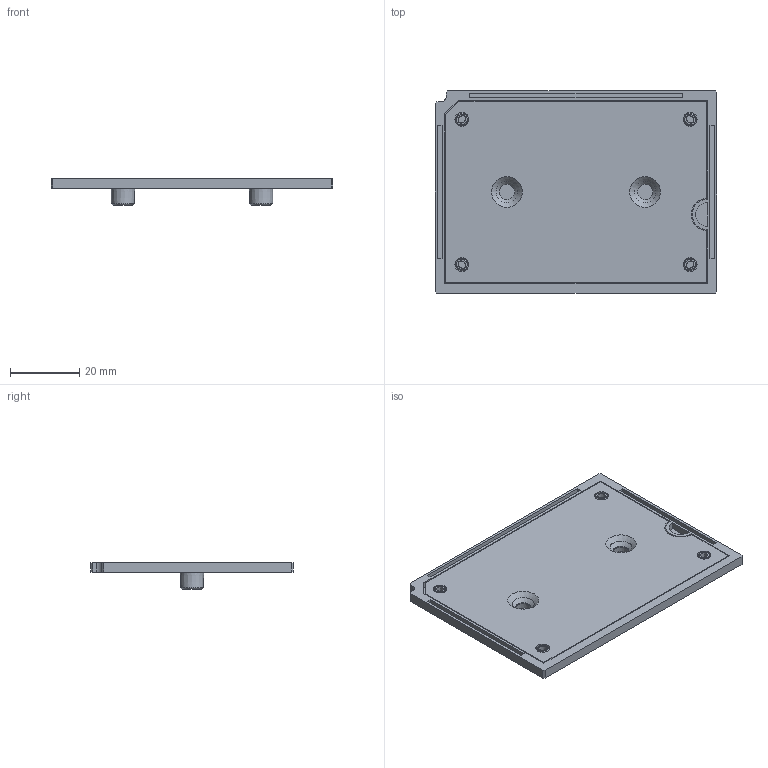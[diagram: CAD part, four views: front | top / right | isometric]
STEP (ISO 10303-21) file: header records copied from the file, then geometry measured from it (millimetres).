
FILE_DESCRIPTION(/* description */ ('Unknown','CAx-IF Rec.Pracs.---Representation and Presentation of Product Manufacturing Information (PMI)---4.0---2014-10-13','CAx-IF Rec.Pracs.---3D Tessellated Geometry---0.4---2014-09-14','2;1'),/* implementation_level */ '2;1');
FILE_NAME(/* name */ 'V23990-K33-T-02.1-27',/* time_stamp */ '2025-10-08T15:36:48+02:00',/* author */ ('Unknown'),/* organization */ ('Unknown'),/* preprocessor_version */ 'ST-DEVELOPER v20',/* originating_system */ 'Solid Edge',/* authorisation */ 'Unknown');
FILE_SCHEMA (('AP242_MANAGED_MODEL_BASED_3D_ENGINEERING_MIM_LF { 1 0 10303 442 1 1 4 }'));
Length unit declared in the file: millimetre
Products named in the file (3): NEW MiniSKiiP 2nd Generation Slim Lid Size 3_25121070; kunstoffdeckel flach 3; 41350190
Assembly tree (2 placements, depth 2):
  NEW MiniSKiiP 2nd Generation Slim Lid Size 3_25121070
    kunstoffdeckel flach 3
    41350190
Bounding box: 81.5 x 58.5 x 7.8 mm (x, y, z)
Volume: 12857.5 mm3; surface area: 20157.4 mm2
Topology: 4 solids, 4 shells, 565 faces, 1312 edges, 758 vertices
Faces by surface type: bspline 256, plane 95, torus 84, cylinder 80, cone 50
Full cylindrical faces by diameter (mm): 4 x4, 4.5 x4, 10 x2, 12 x2
Entity records: 19336 total; most frequent: CARTESIAN_POINT 8202, ORIENTED_EDGE 2528, DIRECTION 1980, EDGE_CURVE 1264, AXIS2_PLACEMENT_3D 882, VERTEX_POINT 752, EDGE_LOOP 626, FACE_BOUND 626
